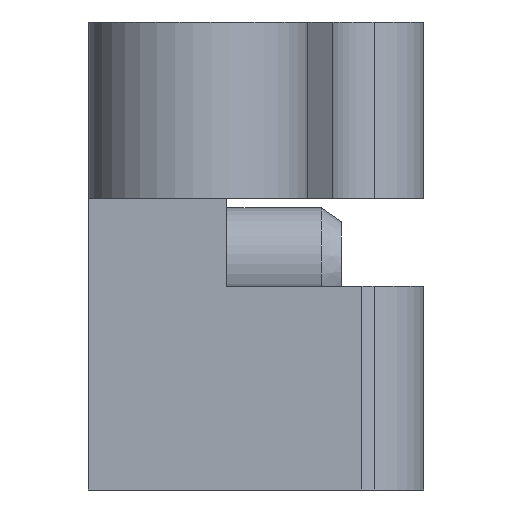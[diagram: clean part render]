
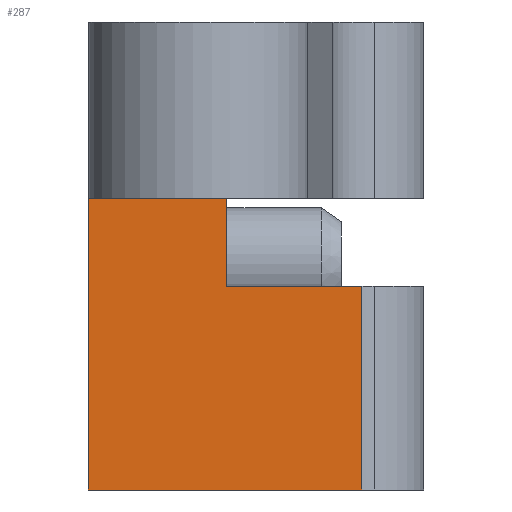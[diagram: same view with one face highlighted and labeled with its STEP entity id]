
A CAD part, left-side view. The second image highlights one B-rep face of the part: STEP entity #287.
In plain terms, the highlighted planar face has unit normal (-1, 0, 0).
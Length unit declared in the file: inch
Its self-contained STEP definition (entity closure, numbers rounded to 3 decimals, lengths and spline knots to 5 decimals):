
#28 = DIRECTION ( 'NONE',  ( 0., -1., 0. ) ) ;
#47 = CARTESIAN_POINT ( 'NONE',  ( -0.075, 0.23, 0. ) ) ;
#78 = VERTEX_POINT ( 'NONE', #903 ) ;
#79 = VERTEX_POINT ( 'NONE', #47 ) ;
#127 = DIRECTION ( 'NONE',  ( 0., 0., -1. ) ) ;
#139 = DIRECTION ( 'NONE',  ( 0., 0., 1. ) ) ;
#146 = VECTOR ( 'NONE', #966, 39.37008 ) ;
#195 = EDGE_CURVE ( 'NONE', #78, #1465, #1095, .T. ) ;
#242 = CARTESIAN_POINT ( 'NONE',  ( -0.075, -0.075, 0.265 ) ) ;
#287 = ADVANCED_FACE ( 'NONE', ( #927 ), #1333, .T. ) ;
#338 = LINE ( 'NONE', #1119, #146 ) ;
#363 = EDGE_LOOP ( 'NONE', ( #941, #1386, #1290, #560, #544, #375 ) ) ;
#373 = AXIS2_PLACEMENT_3D ( 'NONE', #242, #1211, #496 ) ;
#375 = ORIENTED_EDGE ( 'NONE', *, *, #1536, .T. ) ;
#399 = CARTESIAN_POINT ( 'NONE',  ( -0.075, 0.23, 0.425 ) ) ;
#479 = DIRECTION ( 'NONE',  ( 0., 1., 0. ) ) ;
#482 = VECTOR ( 'NONE', #479, 39.37008 ) ;
#496 = DIRECTION ( 'NONE',  ( 0., 0., 1. ) ) ;
#530 = VERTEX_POINT ( 'NONE', #1291 ) ;
#544 = ORIENTED_EDGE ( 'NONE', *, *, #609, .T. ) ;
#560 = ORIENTED_EDGE ( 'NONE', *, *, #709, .T. ) ;
#592 = CARTESIAN_POINT ( 'NONE',  ( -0.075, -0.075, 0.185 ) ) ;
#600 = CARTESIAN_POINT ( 'NONE',  ( -0.075, 0.23, 0.265 ) ) ;
#609 = EDGE_CURVE ( 'NONE', #788, #530, #997, .T. ) ;
#639 = VERTEX_POINT ( 'NONE', #600 ) ;
#666 = VECTOR ( 'NONE', #1460, 39.37008 ) ;
#701 = VECTOR ( 'NONE', #127, 39.37008 ) ;
#709 = EDGE_CURVE ( 'NONE', #1465, #788, #1124, .T. ) ;
#739 = CARTESIAN_POINT ( 'NONE',  ( -0.075, 0.1045, 0.265 ) ) ;
#788 = VERTEX_POINT ( 'NONE', #826 ) ;
#824 = EDGE_CURVE ( 'NONE', #639, #79, #976, .T. ) ;
#826 = CARTESIAN_POINT ( 'NONE',  ( -0.075, 0.1045, 0.185 ) ) ;
#903 = CARTESIAN_POINT ( 'NONE',  ( -0.075, -0.01869, 0. ) ) ;
#927 = FACE_OUTER_BOUND ( 'NONE', #363, .T. ) ;
#941 = ORIENTED_EDGE ( 'NONE', *, *, #824, .T. ) ;
#950 = EDGE_CURVE ( 'NONE', #79, #78, #1495, .T. ) ;
#966 = DIRECTION ( 'NONE',  ( 0., 1., 0. ) ) ;
#976 = LINE ( 'NONE', #399, #701 ) ;
#997 = LINE ( 'NONE', #739, #666 ) ;
#1008 = CARTESIAN_POINT ( 'NONE',  ( -0.075, -0.01869, 0.265 ) ) ;
#1095 = LINE ( 'NONE', #1008, #1226 ) ;
#1119 = CARTESIAN_POINT ( 'NONE',  ( -0.075, -0.075, 0.265 ) ) ;
#1124 = LINE ( 'NONE', #592, #482 ) ;
#1174 = VECTOR ( 'NONE', #28, 39.37008 ) ;
#1211 = DIRECTION ( 'NONE',  ( -1., 0., 0. ) ) ;
#1226 = VECTOR ( 'NONE', #139, 39.37008 ) ;
#1244 = CARTESIAN_POINT ( 'NONE',  ( -0.075, -0.075, 0. ) ) ;
#1290 = ORIENTED_EDGE ( 'NONE', *, *, #195, .T. ) ;
#1291 = CARTESIAN_POINT ( 'NONE',  ( -0.075, 0.1045, 0.265 ) ) ;
#1333 = PLANE ( 'NONE',  #373 ) ;
#1386 = ORIENTED_EDGE ( 'NONE', *, *, #950, .T. ) ;
#1453 = CARTESIAN_POINT ( 'NONE',  ( -0.075, -0.01869, 0.185 ) ) ;
#1460 = DIRECTION ( 'NONE',  ( 0., 0., 1. ) ) ;
#1465 = VERTEX_POINT ( 'NONE', #1453 ) ;
#1495 = LINE ( 'NONE', #1244, #1174 ) ;
#1536 = EDGE_CURVE ( 'NONE', #530, #639, #338, .T. ) ;
